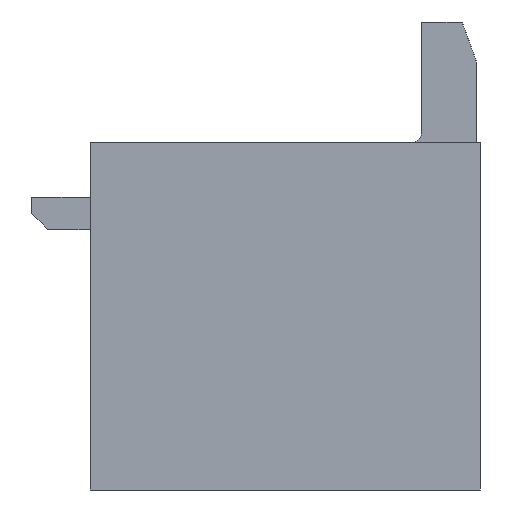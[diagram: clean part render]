
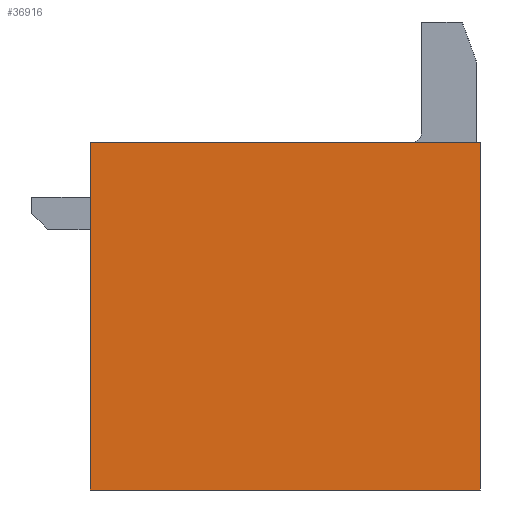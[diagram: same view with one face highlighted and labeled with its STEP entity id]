
A CAD part, left-side view. The second image highlights one B-rep face of the part: STEP entity #36916.
In plain terms, the highlighted planar face has unit normal (-1, 0, 0).
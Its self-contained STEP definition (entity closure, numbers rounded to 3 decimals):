
#266=DIRECTION('',(0.,0.,-1.));
#267=VECTOR('',#266,4.45);
#268=CARTESIAN_POINT('',(-3.85,5.,4.45));
#269=LINE('',#268,#267);
#13496=DIRECTION('',(0.,0.,-1.));
#13497=VECTOR('',#13496,4.45);
#13498=CARTESIAN_POINT('',(-3.85,0.,4.45));
#13499=LINE('',#13498,#13497);
#13500=DIRECTION('',(0.,1.,0.));
#13501=VECTOR('',#13500,5.);
#13502=CARTESIAN_POINT('',(-3.85,0.,0.));
#13503=LINE('',#13502,#13501);
#13508=DIRECTION('',(0.,1.,0.));
#13509=VECTOR('',#13508,5.);
#13510=CARTESIAN_POINT('',(-3.85,0.,4.45));
#13511=LINE('',#13510,#13509);
#17784=CARTESIAN_POINT('',(-3.85,0.,0.));
#17785=CARTESIAN_POINT('',(-3.85,5.,0.));
#17786=VERTEX_POINT('',#17784);
#17787=VERTEX_POINT('',#17785);
#17840=CARTESIAN_POINT('',(-3.85,5.,4.45));
#17841=VERTEX_POINT('',#17840);
#18340=CARTESIAN_POINT('',(-3.85,0.,4.45));
#18341=VERTEX_POINT('',#18340);
#36904=CARTESIAN_POINT('',(-3.85,5.,0.));
#36905=DIRECTION('',(-1.,0.,0.));
#36906=DIRECTION('',(0.,0.,1.));
#36907=AXIS2_PLACEMENT_3D('',#36904,#36905,#36906);
#36908=PLANE('',#36907);
#36909=ORIENTED_EDGE('',*,*,#18868,.F.);
#36911=ORIENTED_EDGE('',*,*,#36910,.F.);
#36912=ORIENTED_EDGE('',*,*,#36888,.T.);
#36913=ORIENTED_EDGE('',*,*,#18592,.T.);
#36914=EDGE_LOOP('',(#36909,#36911,#36912,#36913));
#36915=FACE_OUTER_BOUND('',#36914,.F.);
#36916=ADVANCED_FACE('',(#36915),#36908,.T.);
#18592=EDGE_CURVE('',#17786,#17787,#13503,.T.);
#18868=EDGE_CURVE('',#17841,#17787,#269,.T.);
#36888=EDGE_CURVE('',#18341,#17786,#13499,.T.);
#36910=EDGE_CURVE('',#18341,#17841,#13511,.T.);
